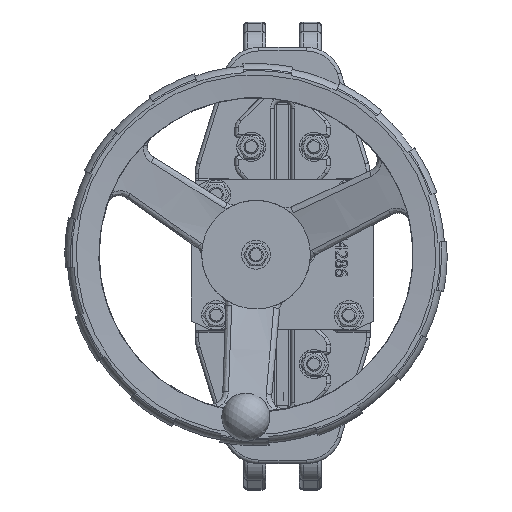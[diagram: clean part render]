
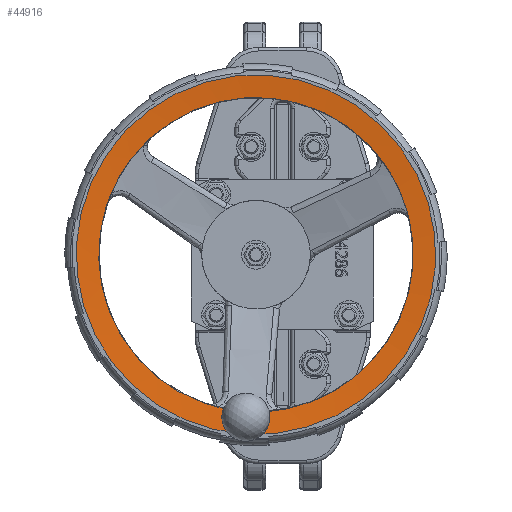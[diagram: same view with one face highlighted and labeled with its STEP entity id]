
A CAD part, top view. The second image highlights one B-rep face of the part: STEP entity #44916.
In plain terms, the highlighted conical face has half-angle 85 degrees and reference radius 139.655 mm.
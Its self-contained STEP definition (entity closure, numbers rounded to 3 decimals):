
#605=B_SPLINE_CURVE_WITH_KNOTS('',3,(#66257,#66258,#66259,#66260,#66261,
#66262,#66263),.UNSPECIFIED.,.F.,.F.,(4,3,4),(-0.377,0.,0.165),
 .UNSPECIFIED.);
#608=B_SPLINE_CURVE_WITH_KNOTS('',3,(#66274,#66275,#66276,#66277,#66278,
#66279),.UNSPECIFIED.,.F.,.F.,(4,2,4),(4.701,4.866,
5.243),.UNSPECIFIED.);
#3032=LINE('',#66408,#6018);
#6018=VECTOR('',#52285,139.654);
#8996=(
BOUNDED_CURVE()
B_SPLINE_CURVE(2,(#66339,#66340,#66341),.UNSPECIFIED.,.F.,.F.)
B_SPLINE_CURVE_WITH_KNOTS((3,3),(30.11,30.242),
 .UNSPECIFIED.)
CURVE()
GEOMETRIC_REPRESENTATION_ITEM()
RATIONAL_B_SPLINE_CURVE((1.105,1.066,1.026))
REPRESENTATION_ITEM('')
);
#8997=(
BOUNDED_CURVE()
B_SPLINE_CURVE(2,(#66401,#66402,#66403),.UNSPECIFIED.,.F.,.F.)
B_SPLINE_CURVE_WITH_KNOTS((3,3),(0.043,0.176),
 .UNSPECIFIED.)
CURVE()
GEOMETRIC_REPRESENTATION_ITEM()
RATIONAL_B_SPLINE_CURVE((1.026,1.066,1.105))
REPRESENTATION_ITEM('')
);
#9144=CONICAL_SURFACE('',#47620,139.654,1.484);
#9456=FACE_OUTER_BOUND('',#12107,.T.);
#12107=EDGE_LOOP('',(#28617,#28618,#28619,#28620,#28621,#28622,#28623,#28624,
#28625,#28626,#28627));
#14924=CIRCLE('',#47609,147.454);
#14928=CIRCLE('',#47621,130.309);
#14929=CIRCLE('',#47622,149.);
#14930=CIRCLE('',#47623,149.);
#14931=CIRCLE('',#47624,130.309);
#17293=VERTEX_POINT('',#66206);
#17294=VERTEX_POINT('',#66207);
#17303=VERTEX_POINT('',#66255);
#17304=VERTEX_POINT('',#66256);
#17305=VERTEX_POINT('',#66268);
#17306=VERTEX_POINT('',#66273);
#17313=VERTEX_POINT('',#66405);
#17314=VERTEX_POINT('',#66407);
#17315=VERTEX_POINT('',#66409);
#21618=EDGE_CURVE('',#17293,#17294,#14924,.T.);
#21629=EDGE_CURVE('',#17303,#17304,#605,.T.);
#21632=EDGE_CURVE('',#17306,#17305,#608,.T.);
#21639=EDGE_CURVE('',#17304,#17293,#8996,.T.);
#21645=EDGE_CURVE('',#17294,#17306,#8997,.T.);
#21646=EDGE_CURVE('',#17305,#17313,#14928,.T.);
#21647=EDGE_CURVE('',#17313,#17314,#3032,.T.);
#21648=EDGE_CURVE('',#17315,#17314,#14929,.T.);
#21649=EDGE_CURVE('',#17314,#17315,#14930,.T.);
#21650=EDGE_CURVE('',#17313,#17303,#14931,.T.);
#28617=ORIENTED_EDGE('',*,*,#21629,.T.);
#28618=ORIENTED_EDGE('',*,*,#21639,.T.);
#28619=ORIENTED_EDGE('',*,*,#21618,.T.);
#28620=ORIENTED_EDGE('',*,*,#21645,.T.);
#28621=ORIENTED_EDGE('',*,*,#21632,.T.);
#28622=ORIENTED_EDGE('',*,*,#21646,.T.);
#28623=ORIENTED_EDGE('',*,*,#21647,.T.);
#28624=ORIENTED_EDGE('',*,*,#21648,.F.);
#28625=ORIENTED_EDGE('',*,*,#21649,.F.);
#28626=ORIENTED_EDGE('',*,*,#21647,.F.);
#28627=ORIENTED_EDGE('',*,*,#21650,.T.);
#44916=ADVANCED_FACE('',(#9456),#9144,.F.);
#47609=AXIS2_PLACEMENT_3D('',#66208,#52251,#52252);
#47620=AXIS2_PLACEMENT_3D('',#66404,#52281,#52282);
#47621=AXIS2_PLACEMENT_3D('',#66406,#52283,#52284);
#47622=AXIS2_PLACEMENT_3D('',#66410,#52286,#52287);
#47623=AXIS2_PLACEMENT_3D('',#66411,#52288,#52289);
#47624=AXIS2_PLACEMENT_3D('',#66412,#52290,#52291);
#52251=DIRECTION('center_axis',(0.,0.,
-1.));
#52252=DIRECTION('ref_axis',(-0.833,0.553,0.));
#52281=DIRECTION('center_axis',(0.,0.,
1.));
#52282=DIRECTION('ref_axis',(-0.833,0.553,0.));
#52283=DIRECTION('center_axis',(0.,0.,
-1.));
#52284=DIRECTION('ref_axis',(-0.833,0.553,0.));
#52285=DIRECTION('',(0.83,-0.551,0.087));
#52286=DIRECTION('center_axis',(0.,0.,
-1.));
#52287=DIRECTION('ref_axis',(-0.833,0.553,0.));
#52288=DIRECTION('center_axis',(0.,0.,
-1.));
#52289=DIRECTION('ref_axis',(-0.833,0.553,0.));
#52290=DIRECTION('center_axis',(0.,0.,
-1.));
#52291=DIRECTION('ref_axis',(-0.833,0.553,0.));
#66206=CARTESIAN_POINT('',(-16.187,-147.339,655.5));
#66207=CARTESIAN_POINT('',(-46.128,-145.467,655.5));
#66208=CARTESIAN_POINT('Origin',(-22.,0.,
655.5));
#66255=CARTESIAN_POINT('',(-16.137,-130.177,654.));
#66256=CARTESIAN_POINT('',(-15.457,-135.673,654.483));
#66257=CARTESIAN_POINT('Ctrl Pts',(-16.137,-130.177,
654.));
#66258=CARTESIAN_POINT('Ctrl Pts',(-15.733,-131.445,654.112));
#66259=CARTESIAN_POINT('Ctrl Pts',(-15.507,-132.753,
654.228));
#66260=CARTESIAN_POINT('Ctrl Pts',(-15.446,-134.004,654.337));
#66261=CARTESIAN_POINT('Ctrl Pts',(-15.419,-134.552,654.385));
#66262=CARTESIAN_POINT('Ctrl Pts',(-15.422,-135.11,
654.434));
#66263=CARTESIAN_POINT('Ctrl Pts',(-15.457,-135.673,
654.483));
#66268=CARTESIAN_POINT('',(-44.038,-128.432,654.));
#66273=CARTESIAN_POINT('',(-45.398,-133.8,654.483));
#66274=CARTESIAN_POINT('Ctrl Pts',(-45.398,-133.8,
654.483));
#66275=CARTESIAN_POINT('Ctrl Pts',(-45.363,-133.237,
654.434));
#66276=CARTESIAN_POINT('Ctrl Pts',(-45.296,-132.683,
654.385));
#66277=CARTESIAN_POINT('Ctrl Pts',(-44.985,-130.909,
654.228));
#66278=CARTESIAN_POINT('Ctrl Pts',(-44.598,-129.64,
654.112));
#66279=CARTESIAN_POINT('Ctrl Pts',(-44.038,-128.432,
654.));
#66339=CARTESIAN_POINT('Ctrl Pts',(-15.457,-135.673,
654.483));
#66340=CARTESIAN_POINT('Ctrl Pts',(-15.807,-141.267,
654.97));
#66341=CARTESIAN_POINT('Ctrl Pts',(-16.187,-147.339,
655.5));
#66401=CARTESIAN_POINT('Ctrl Pts',(-46.128,-145.467,
655.5));
#66402=CARTESIAN_POINT('Ctrl Pts',(-45.748,-139.394,
654.97));
#66403=CARTESIAN_POINT('Ctrl Pts',(-45.398,-133.8,
654.483));
#66404=CARTESIAN_POINT('Origin',(-22.,0.,
654.818));
#66405=CARTESIAN_POINT('',(86.563,-72.072,654.));
#66406=CARTESIAN_POINT('Origin',(-22.,0.,
654.));
#66407=CARTESIAN_POINT('',(102.135,-82.41,655.635));
#66408=CARTESIAN_POINT('',(94.349,-77.241,654.818));
#66409=CARTESIAN_POINT('',(-146.135,82.41,655.635));
#66410=CARTESIAN_POINT('Origin',(-22.,0.,
655.635));
#66411=CARTESIAN_POINT('Origin',(-22.,0.,
655.635));
#66412=CARTESIAN_POINT('Origin',(-22.,0.,
654.));
